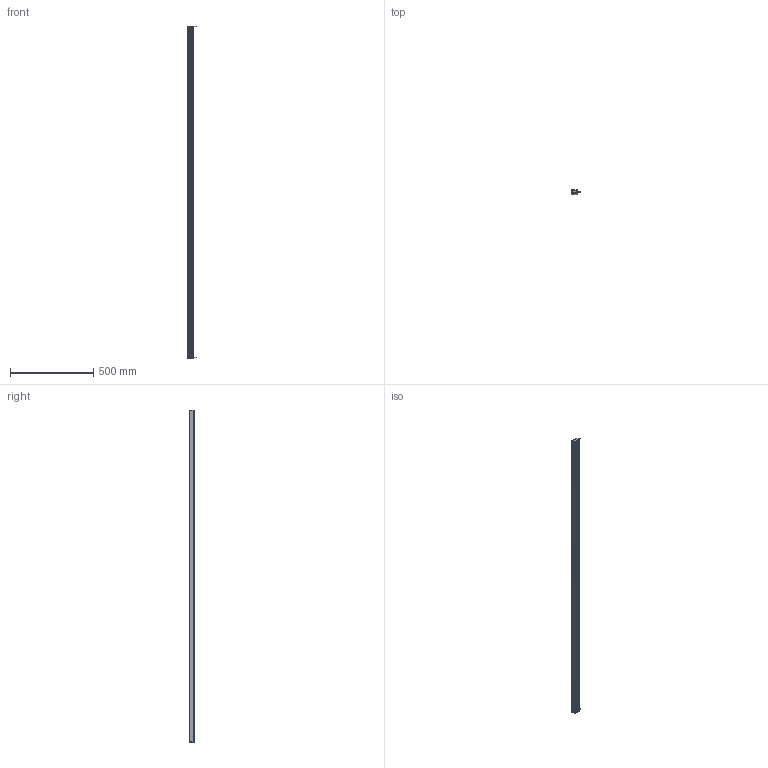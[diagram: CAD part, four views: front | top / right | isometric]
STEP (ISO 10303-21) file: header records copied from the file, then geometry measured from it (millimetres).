
FILE_DESCRIPTION((''),'2;1');
FILE_NAME('P-BL2-2000-38_ASM','2022-03-11T',('Administrator'),(''),'PRO/ENGINEER BY PARAMETRIC TECHNOLOGY CORPORATION, 2010100','PRO/ENGINEER BY PARAMETRIC TECHNOLOGY CORPORATION, 2010100','');
FILE_SCHEMA(('CONFIG_CONTROL_DESIGN'));
Length unit declared in the file: millimetre
Products named in the file (2): P-BL2-2000-38-SRZ; P-BL2-2000-38_ASM
Assembly tree (1 placements, depth 2):
  P-BL2-2000-38_ASM
    P-BL2-2000-38-SRZ
Bounding box: 58 x 27 x 2000 mm (x, y, z)
Volume: 772422.1 mm3; surface area: 668442.1 mm2
Topology: 1 solids, 6 shells, 254 faces, 694 edges, 450 vertices
Faces by surface type: plane 178, cylinder 60, cone 16
Entity records: 7992 total; most frequent: CARTESIAN_POINT 1424, ORIENTED_EDGE 1356, DIRECTION 1332, EDGE_CURVE 686, VECTOR 548, LINE 548, VERTEX_POINT 450, AXIS2_PLACEMENT_3D 392
